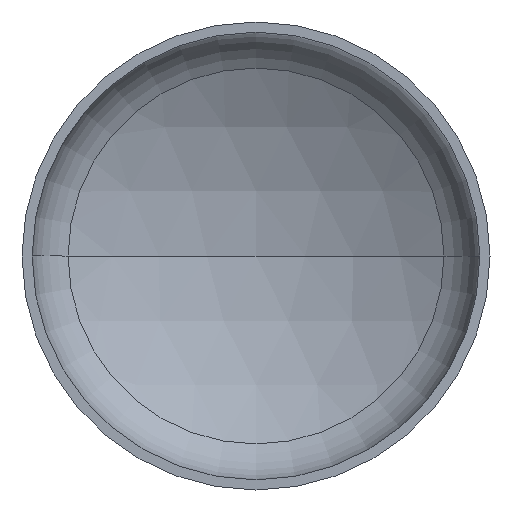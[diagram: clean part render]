
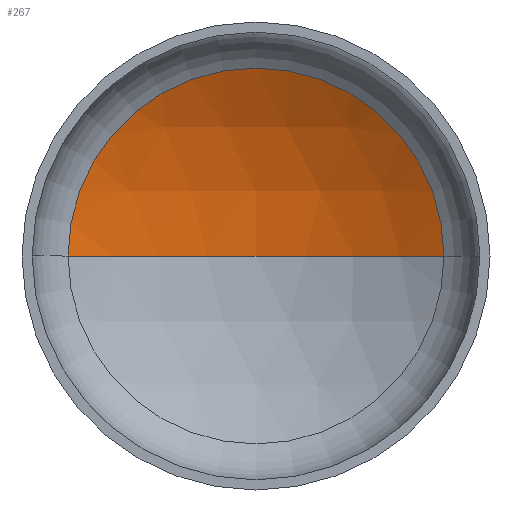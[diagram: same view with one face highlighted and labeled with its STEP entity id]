
A CAD part, front view. The second image highlights one B-rep face of the part: STEP entity #267.
In plain terms, the highlighted spherical face has radius 2880 mm.
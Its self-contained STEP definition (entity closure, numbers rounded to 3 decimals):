
#4 = AXIS2_PLACEMENT_3D ( 'NONE', #411, #125, #297 ) ;
#7 = DIRECTION ( 'NONE',  ( 1., 0., 0. ) ) ;
#17 = AXIS2_PLACEMENT_3D ( 'NONE', #273, #115, #292 ) ;
#18 = AXIS2_PLACEMENT_3D ( 'NONE', #361, #220, #385 ) ;
#20 = DIRECTION ( 'NONE',  ( 0., -1., 0. ) ) ;
#21 = AXIS2_PLACEMENT_3D ( 'NONE', #312, #20, #7 ) ;
#62 = ORIENTED_EDGE ( 'NONE', *, *, #81, .T. ) ;
#71 = ORIENTED_EDGE ( 'NONE', *, *, #82, .T. ) ;
#74 = VERTEX_POINT ( 'NONE', #246 ) ;
#81 = EDGE_CURVE ( 'NONE', #74, #105, #242, .T. ) ;
#82 = EDGE_CURVE ( 'NONE', #98, #74, #166, .T. ) ;
#86 = EDGE_CURVE ( 'NONE', #98, #105, #92, .T. ) ;
#92 = CIRCLE ( 'NONE', #17, 2880. ) ;
#98 = VERTEX_POINT ( 'NONE', #363 ) ;
#105 = VERTEX_POINT ( 'NONE', #190 ) ;
#110 = EDGE_LOOP ( 'NONE', ( #118, #71, #62 ) ) ;
#115 = DIRECTION ( 'NONE',  ( 0., 0., 1. ) ) ;
#118 = ORIENTED_EDGE ( 'NONE', *, *, #86, .F. ) ;
#125 = DIRECTION ( 'NONE',  ( 0., 0., -1. ) ) ;
#166 = CIRCLE ( 'NONE', #18, 2880. ) ;
#190 = CARTESIAN_POINT ( 'NONE',  ( -1445.574, 600.022, 0. ) ) ;
#220 = DIRECTION ( 'NONE',  ( 0., 0., -1. ) ) ;
#242 = CIRCLE ( 'NONE', #21, 1445.574 ) ;
#246 = CARTESIAN_POINT ( 'NONE',  ( 1445.574, 600.022, 0. ) ) ;
#267 = ADVANCED_FACE ( 'NONE', ( #278 ), #400, .F. ) ;
#273 = CARTESIAN_POINT ( 'NONE',  ( 0., -1890.904, 0. ) ) ;
#278 = FACE_OUTER_BOUND ( 'NONE', #110, .T. ) ;
#292 = DIRECTION ( 'NONE',  ( 1., 0., 0. ) ) ;
#297 = DIRECTION ( 'NONE',  ( -1., 0., 0. ) ) ;
#312 = CARTESIAN_POINT ( 'NONE',  ( 0., 600.022, 0. ) ) ;
#361 = CARTESIAN_POINT ( 'NONE',  ( 0., -1890.904, 0. ) ) ;
#363 = CARTESIAN_POINT ( 'NONE',  ( 0., 989.096, 0. ) ) ;
#385 = DIRECTION ( 'NONE',  ( -1., 0., 0. ) ) ;
#400 = SPHERICAL_SURFACE ( 'NONE', #4, 2880. ) ;
#411 = CARTESIAN_POINT ( 'NONE',  ( 0., -1890.904, 0. ) ) ;
